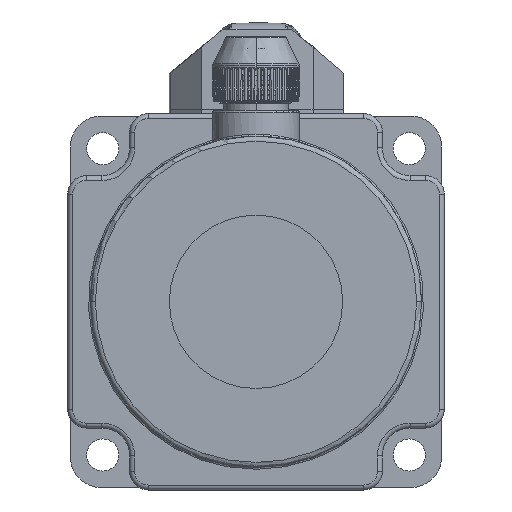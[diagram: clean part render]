
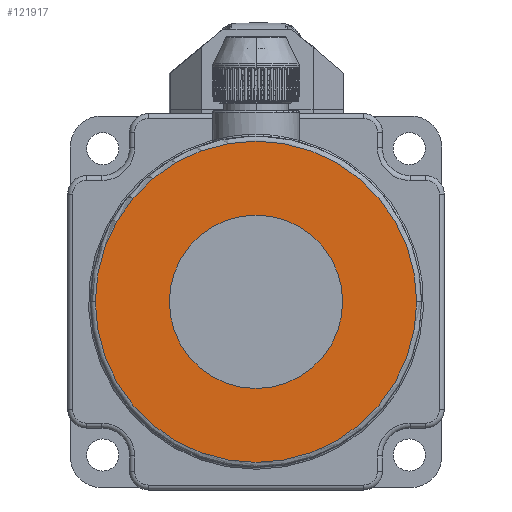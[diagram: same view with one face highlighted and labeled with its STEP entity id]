
A CAD part, left-side view. The second image highlights one B-rep face of the part: STEP entity #121917.
In plain terms, the highlighted planar face has unit normal (-1, 0, 0) as drawn and (0, 0, -1) by its records, which use the part's own axes.
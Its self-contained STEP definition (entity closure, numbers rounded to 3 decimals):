
#116550=CARTESIAN_POINT('',(0.,0.,-12.));
#116551=DIRECTION('',(0.,0.,1.));
#116552=DIRECTION('',(-1.,0.,0.));
#116553=AXIS2_PLACEMENT_3D('',#116550,#116551,#116552);
#116555=CARTESIAN_POINT('',(0.,0.,-12.));
#116556=DIRECTION('',(0.,0.,1.));
#116557=DIRECTION('',(1.,0.,0.));
#116558=AXIS2_PLACEMENT_3D('',#116555,#116556,#116557);
#116560=CARTESIAN_POINT('',(0.,0.,-12.));
#116561=DIRECTION('',(0.,0.,-1.));
#116562=DIRECTION('',(0.,1.,0.));
#116563=AXIS2_PLACEMENT_3D('',#116560,#116561,#116562);
#116565=CARTESIAN_POINT('',(0.,0.,-12.));
#116566=DIRECTION('',(0.,0.,-1.));
#116567=DIRECTION('',(0.,-1.,0.));
#116568=AXIS2_PLACEMENT_3D('',#116565,#116566,#116567);
#117509=CARTESIAN_POINT('',(-25.95,0.,-12.));
#117510=VERTEX_POINT('',#117509);
#117511=CARTESIAN_POINT('',(25.95,0.,-12.));
#117512=VERTEX_POINT('',#117511);
#117513=CARTESIAN_POINT('',(0.,14.,-12.));
#117514=CARTESIAN_POINT('',(0.,-14.,-12.));
#117515=VERTEX_POINT('',#117513);
#117516=VERTEX_POINT('',#117514);
#121902=CARTESIAN_POINT('',(0.,0.,-12.));
#121903=DIRECTION('',(0.,0.,-1.));
#121904=DIRECTION('',(-1.,0.,0.));
#121905=AXIS2_PLACEMENT_3D('',#121902,#121903,#121904);
#121906=PLANE('',#121905);
#121907=ORIENTED_EDGE('',*,*,#121893,.T.);
#121908=ORIENTED_EDGE('',*,*,#121879,.T.);
#121909=EDGE_LOOP('',(#121907,#121908));
#121910=FACE_OUTER_BOUND('',#121909,.F.);
#121912=ORIENTED_EDGE('',*,*,#121911,.T.);
#121914=ORIENTED_EDGE('',*,*,#121913,.T.);
#121915=EDGE_LOOP('',(#121912,#121914));
#121916=FACE_BOUND('',#121915,.F.);
#116554=CIRCLE('',#116553,25.95);
#116559=CIRCLE('',#116558,25.95);
#116564=CIRCLE('',#116563,14.);
#116569=CIRCLE('',#116568,14.);
#121879=EDGE_CURVE('',#117512,#117510,#116559,.T.);
#121893=EDGE_CURVE('',#117510,#117512,#116554,.T.);
#121911=EDGE_CURVE('',#117515,#117516,#116564,.T.);
#121913=EDGE_CURVE('',#117516,#117515,#116569,.T.);
#121917=ADVANCED_FACE('',(#121910,#121916),#121906,.T.);
